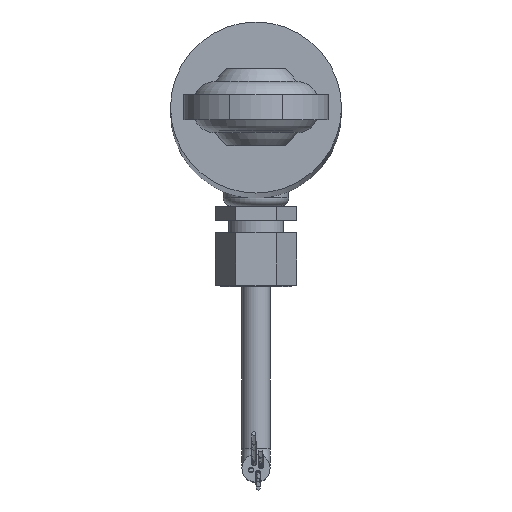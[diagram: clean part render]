
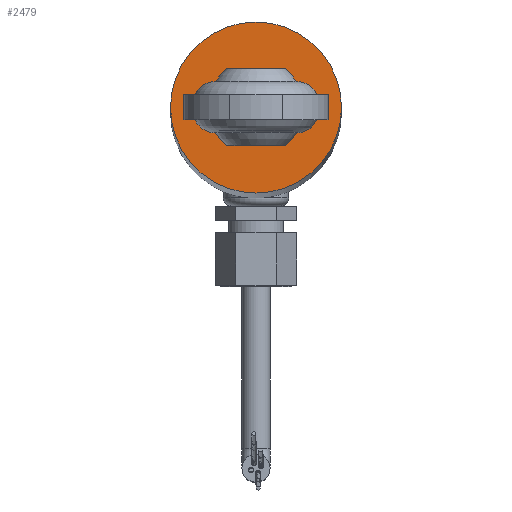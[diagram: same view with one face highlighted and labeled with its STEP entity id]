
A CAD part, top view. The second image highlights one B-rep face of the part: STEP entity #2479.
In plain terms, the highlighted planar face has unit normal (0, 0, 1).
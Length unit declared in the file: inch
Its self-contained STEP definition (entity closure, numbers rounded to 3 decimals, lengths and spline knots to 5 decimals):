
#195=FACE_BOUND('',#569,.T.);
#259=CIRCLE('',#2874,0.185);
#263=CIRCLE('',#2883,0.525);
#406=FACE_OUTER_BOUND('',#568,.T.);
#568=EDGE_LOOP('',(#1860));
#569=EDGE_LOOP('',(#1861));
#1057=VERTEX_POINT('',#4245);
#1061=VERTEX_POINT('',#4297);
#1336=EDGE_CURVE('',#1057,#1057,#259,.T.);
#1344=EDGE_CURVE('',#1061,#1061,#263,.T.);
#1860=ORIENTED_EDGE('',*,*,#1344,.T.);
#1861=ORIENTED_EDGE('',*,*,#1336,.T.);
#2220=PLANE('',#2884);
#2479=ADVANCED_FACE('',(#406,#195),#2220,.T.);
#2874=AXIS2_PLACEMENT_3D('',#4246,#3393,#3394);
#2883=AXIS2_PLACEMENT_3D('',#4298,#3412,#3413);
#2884=AXIS2_PLACEMENT_3D('',#4300,#3415,#3416);
#3393=DIRECTION('center_axis',(0.,0.,
-1.));
#3394=DIRECTION('ref_axis',(-1.,0.,0.));
#3412=DIRECTION('center_axis',(0.,0.,
1.));
#3413=DIRECTION('ref_axis',(-1.,0.,0.));
#3415=DIRECTION('center_axis',(0.,0.,
1.));
#3416=DIRECTION('ref_axis',(-1.,0.,0.));
#4245=CARTESIAN_POINT('',(0.185,0.,17.5));
#4246=CARTESIAN_POINT('Origin',(0.,0.,
17.5));
#4297=CARTESIAN_POINT('',(0.525,0.,17.5));
#4298=CARTESIAN_POINT('Origin',(0.,0.,
17.5));
#4300=CARTESIAN_POINT('Origin',(0.,0.,
17.5));
